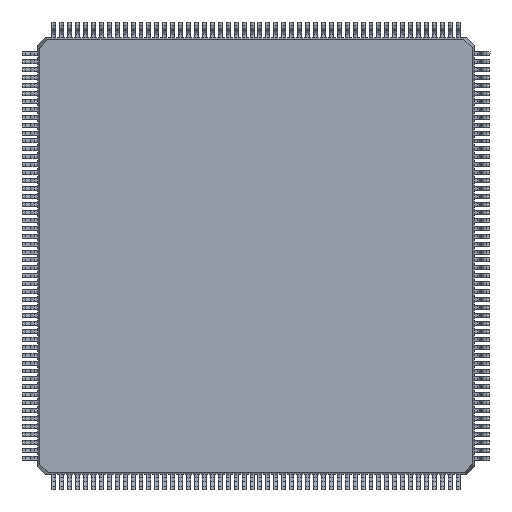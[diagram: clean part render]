
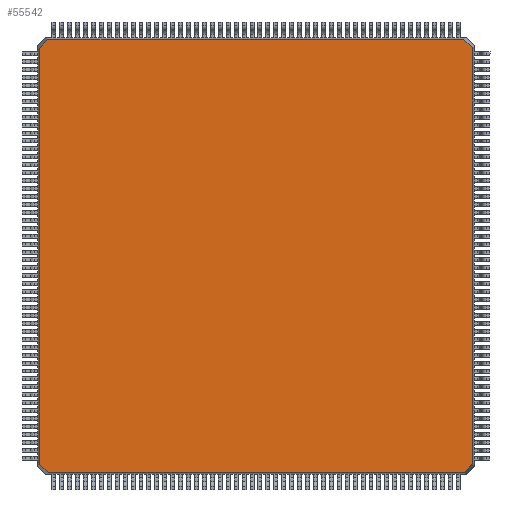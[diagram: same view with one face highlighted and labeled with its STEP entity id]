
A CAD part, front view. The second image highlights one B-rep face of the part: STEP entity #55542.
In plain terms, the highlighted planar face has unit normal (0, -1, 0).
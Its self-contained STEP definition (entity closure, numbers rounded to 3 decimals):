
#1215 = DIRECTION ( 'NONE',  ( -0.718, 0., 0.696 ) ) ;
#3561 = ORIENTED_EDGE ( 'NONE', *, *, #116128, .F. ) ;
#4617 = DIRECTION ( 'NONE',  ( 1., 0., 0. ) ) ;
#13142 = VECTOR ( 'NONE', #22279, 1000. ) ;
#14315 = FACE_OUTER_BOUND ( 'NONE', #83726, .T. ) ;
#15592 = CARTESIAN_POINT ( 'NONE',  ( 0., -0.7, 0. ) ) ;
#17430 = VERTEX_POINT ( 'NONE', #114084 ) ;
#17609 = CARTESIAN_POINT ( 'NONE',  ( -13.75, -0.7, 13.627 ) ) ;
#17976 = CARTESIAN_POINT ( 'NONE',  ( 13.627, -0.7, -13.103 ) ) ;
#19910 = DIRECTION ( 'NONE',  ( 0.696, 0., 0.718 ) ) ;
#20258 = VECTOR ( 'NONE', #19910, 1000. ) ;
#22279 = DIRECTION ( 'NONE',  ( 0., 0., 1. ) ) ;
#22592 = EDGE_CURVE ( 'NONE', #30636, #47567, #77187, .T. ) ;
#24171 = DIRECTION ( 'NONE',  ( 0., 0., -1. ) ) ;
#27635 = DIRECTION ( 'NONE',  ( -0.696, 0., -0.718 ) ) ;
#30636 = VERTEX_POINT ( 'NONE', #17976 ) ;
#31148 = CARTESIAN_POINT ( 'NONE',  ( -13.103, -0.7, -13.627 ) ) ;
#32267 = EDGE_CURVE ( 'NONE', #47567, #47089, #77262, .T. ) ;
#34545 = DIRECTION ( 'NONE',  ( 0., 0., 1. ) ) ;
#38361 = VECTOR ( 'NONE', #80714, 1000. ) ;
#38371 = EDGE_CURVE ( 'NONE', #75461, #97819, #84769, .T. ) ;
#41648 = AXIS2_PLACEMENT_3D ( 'NONE', #15592, #104826, #34545 ) ;
#47089 = VERTEX_POINT ( 'NONE', #103151 ) ;
#47567 = VERTEX_POINT ( 'NONE', #66489 ) ;
#53462 = CARTESIAN_POINT ( 'NONE',  ( 13.103, -0.7, 13.627 ) ) ;
#55542 = ADVANCED_FACE ( 'NONE', ( #14315 ), #103555, .F. ) ;
#58360 = VECTOR ( 'NONE', #27635, 1000. ) ;
#60285 = CARTESIAN_POINT ( 'NONE',  ( -13.627, -0.7, 13.103 ) ) ;
#61432 = ORIENTED_EDGE ( 'NONE', *, *, #99503, .F. ) ;
#62042 = LINE ( 'NONE', #71174, #13142 ) ;
#63404 = VECTOR ( 'NONE', #24171, 1000. ) ;
#65479 = CARTESIAN_POINT ( 'NONE',  ( -13.119, -0.7, 13.627 ) ) ;
#66489 = CARTESIAN_POINT ( 'NONE',  ( 13.119, -0.7, -13.627 ) ) ;
#66563 = CARTESIAN_POINT ( 'NONE',  ( 13.627, -0.7, 13.119 ) ) ;
#67425 = VECTOR ( 'NONE', #97424, 1000. ) ;
#68795 = CARTESIAN_POINT ( 'NONE',  ( -13.75, -0.7, -13.627 ) ) ;
#68828 = LINE ( 'NONE', #69447, #20258 ) ;
#69447 = CARTESIAN_POINT ( 'NONE',  ( -13.627, -0.7, 13.103 ) ) ;
#70270 = CARTESIAN_POINT ( 'NONE',  ( 13.103, -0.7, 13.627 ) ) ;
#71174 = CARTESIAN_POINT ( 'NONE',  ( -13.627, -0.7, -13.75 ) ) ;
#74371 = LINE ( 'NONE', #112812, #63404 ) ;
#74534 = ORIENTED_EDGE ( 'NONE', *, *, #32267, .F. ) ;
#74875 = EDGE_CURVE ( 'NONE', #97819, #87964, #82012, .T. ) ;
#75461 = VERTEX_POINT ( 'NONE', #65479 ) ;
#77187 = LINE ( 'NONE', #116925, #58360 ) ;
#77262 = LINE ( 'NONE', #68795, #67425 ) ;
#79678 = ORIENTED_EDGE ( 'NONE', *, *, #22592, .F. ) ;
#80078 = VECTOR ( 'NONE', #4617, 1000. ) ;
#80714 = DIRECTION ( 'NONE',  ( 0.718, 0., -0.696 ) ) ;
#82012 = LINE ( 'NONE', #70270, #38361 ) ;
#82600 = EDGE_CURVE ( 'NONE', #17430, #108667, #62042, .T. ) ;
#83726 = EDGE_LOOP ( 'NONE', ( #100664, #96139, #3561, #74534, #79678, #61432, #106463, #112199 ) ) ;
#84769 = LINE ( 'NONE', #17609, #80078 ) ;
#87964 = VERTEX_POINT ( 'NONE', #66563 ) ;
#96139 = ORIENTED_EDGE ( 'NONE', *, *, #82600, .F. ) ;
#97424 = DIRECTION ( 'NONE',  ( -1., 0., 0. ) ) ;
#97819 = VERTEX_POINT ( 'NONE', #53462 ) ;
#99503 = EDGE_CURVE ( 'NONE', #87964, #30636, #74371, .T. ) ;
#100664 = ORIENTED_EDGE ( 'NONE', *, *, #103961, .F. ) ;
#103151 = CARTESIAN_POINT ( 'NONE',  ( -13.103, -0.7, -13.627 ) ) ;
#103555 = PLANE ( 'NONE',  #41648 ) ;
#103961 = EDGE_CURVE ( 'NONE', #108667, #75461, #68828, .T. ) ;
#104826 = DIRECTION ( 'NONE',  ( 0., 1., 0. ) ) ;
#106463 = ORIENTED_EDGE ( 'NONE', *, *, #74875, .F. ) ;
#108667 = VERTEX_POINT ( 'NONE', #60285 ) ;
#112199 = ORIENTED_EDGE ( 'NONE', *, *, #38371, .F. ) ;
#112536 = VECTOR ( 'NONE', #1215, 1000. ) ;
#112812 = CARTESIAN_POINT ( 'NONE',  ( 13.627, -0.7, -13.75 ) ) ;
#114084 = CARTESIAN_POINT ( 'NONE',  ( -13.627, -0.7, -13.119 ) ) ;
#116128 = EDGE_CURVE ( 'NONE', #47089, #17430, #121676, .T. ) ;
#116925 = CARTESIAN_POINT ( 'NONE',  ( 13.627, -0.7, -13.103 ) ) ;
#121676 = LINE ( 'NONE', #31148, #112536 ) ;
